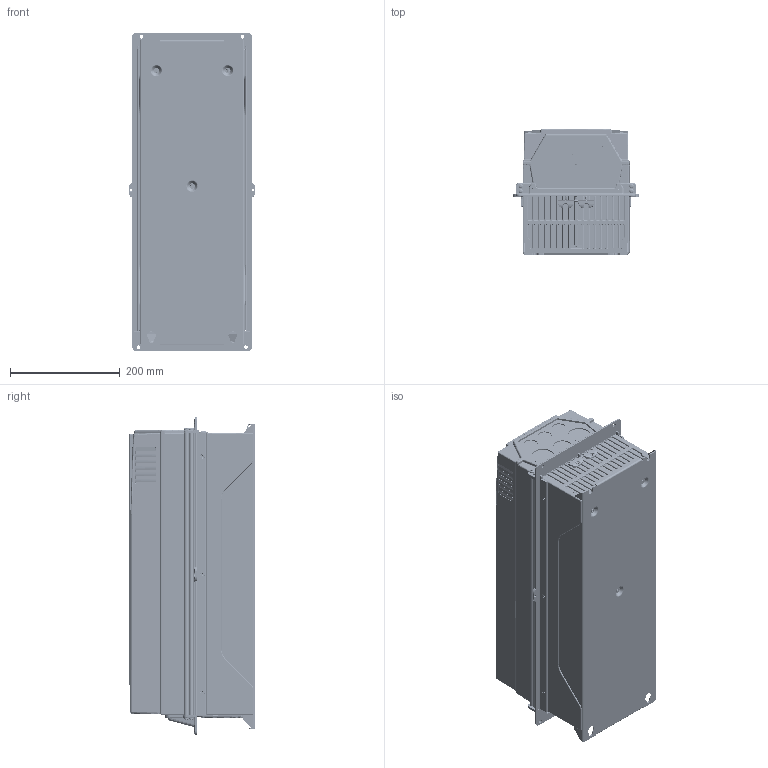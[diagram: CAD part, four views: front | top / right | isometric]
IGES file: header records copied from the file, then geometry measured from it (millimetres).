
Global section: file name: C:\temp\3D mechanics (extra.vacon)\Agileen\MR6\MR6_Simplified_Model_Flange_Mount_igs.igs; native system: NX V6.0; preprocessor: SIEMENS UGS NX 6.0; date: 20121217.130010; units: millimetre
Bounding box: 230.77 x 229 x 580 mm (x, y, z)
Surface area: 1107219.3 mm2 (no closed solid volume)
Topology: 0 solids, 0 shells, 2981 faces, 17699 edges, 17438 vertices
Faces by surface type: bspline 2981
